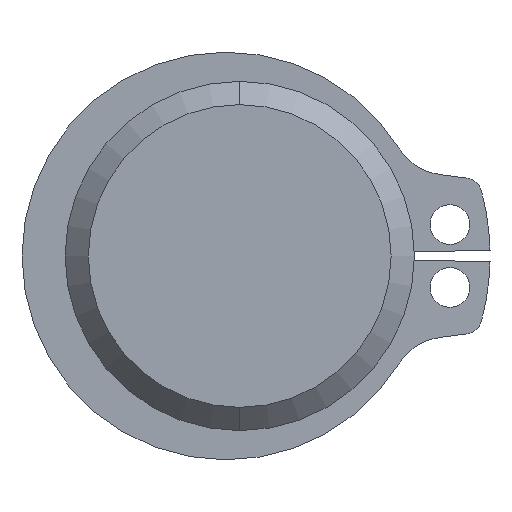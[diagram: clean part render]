
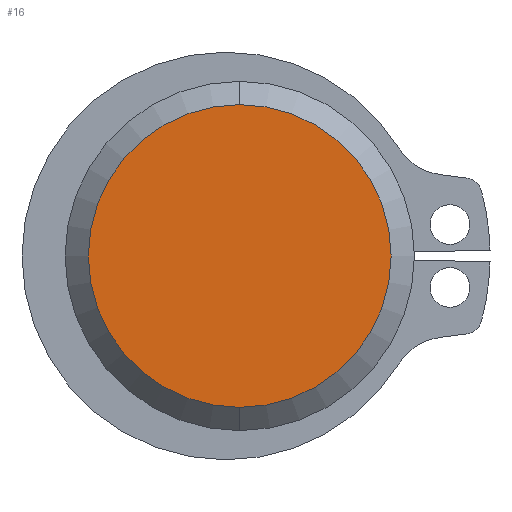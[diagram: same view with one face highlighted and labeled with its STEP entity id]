
A CAD part, left-side view. The second image highlights one B-rep face of the part: STEP entity #16.
In plain terms, the highlighted planar face has unit normal (-1, 0, 0).
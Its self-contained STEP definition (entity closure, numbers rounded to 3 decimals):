
#16 = ADVANCED_FACE ( 'NONE', ( #942 ), #1530, .F. ) ;
#60 = AXIS2_PLACEMENT_3D ( 'NONE', #347, #464, #450 ) ;
#68 = AXIS2_PLACEMENT_3D ( 'NONE', #1588, #1561, #1288 ) ;
#219 = EDGE_CURVE ( 'NONE', #891, #977, #624, .T. ) ;
#294 = AXIS2_PLACEMENT_3D ( 'NONE', #1536, #1540, #1532 ) ;
#307 = EDGE_CURVE ( 'NONE', #977, #891, #648, .T. ) ;
#347 = CARTESIAN_POINT ( 'NONE',  ( -49.75, 0., 0. ) ) ;
#366 = CARTESIAN_POINT ( 'NONE',  ( -49.75, 0., 6.5 ) ) ;
#383 = CARTESIAN_POINT ( 'NONE',  ( -49.75, 0., -6.5 ) ) ;
#450 = DIRECTION ( 'NONE',  ( 0., 0., -1. ) ) ;
#464 = DIRECTION ( 'NONE',  ( -1., 0., 0. ) ) ;
#624 = CIRCLE ( 'NONE', #68, 6.5 ) ;
#648 = CIRCLE ( 'NONE', #60, 6.5 ) ;
#864 = ORIENTED_EDGE ( 'NONE', *, *, #307, .T. ) ;
#869 = ORIENTED_EDGE ( 'NONE', *, *, #219, .T. ) ;
#891 = VERTEX_POINT ( 'NONE', #366 ) ;
#942 = FACE_OUTER_BOUND ( 'NONE', #993, .T. ) ;
#977 = VERTEX_POINT ( 'NONE', #383 ) ;
#993 = EDGE_LOOP ( 'NONE', ( #864, #869 ) ) ;
#1288 = DIRECTION ( 'NONE',  ( 0., 0., -1. ) ) ;
#1530 = PLANE ( 'NONE',  #294 ) ;
#1532 = DIRECTION ( 'NONE',  ( 0., 0., -1. ) ) ;
#1536 = CARTESIAN_POINT ( 'NONE',  ( -49.75, 0., 0. ) ) ;
#1540 = DIRECTION ( 'NONE',  ( 1., 0., 0. ) ) ;
#1561 = DIRECTION ( 'NONE',  ( -1., 0., 0. ) ) ;
#1588 = CARTESIAN_POINT ( 'NONE',  ( -49.75, 0., 0. ) ) ;
